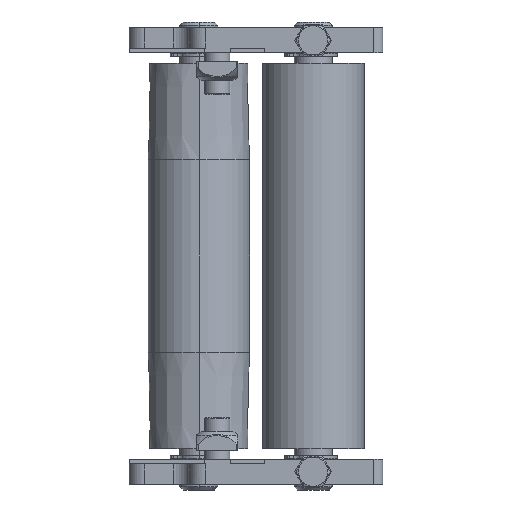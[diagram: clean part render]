
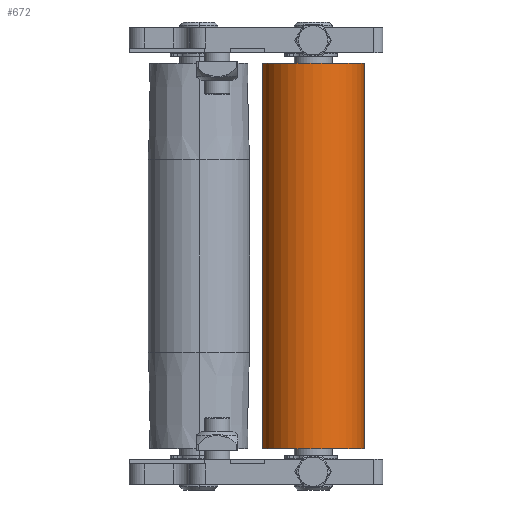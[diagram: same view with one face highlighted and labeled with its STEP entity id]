
A CAD part, left-side view. The second image highlights one B-rep face of the part: STEP entity #672.
In plain terms, the highlighted cylindrical face has radius 16 mm (diameter 32 mm), a partial arc.
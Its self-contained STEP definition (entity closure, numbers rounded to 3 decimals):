
#404 = CARTESIAN_POINT ( 'NONE',  ( 0., 0., 60.75 ) ) ;
#672 = ADVANCED_FACE ( 'NONE', ( #1500 ), #4150, .T. ) ;
#1006 = DIRECTION ( 'NONE',  ( 0., 0., -1. ) ) ;
#1235 = AXIS2_PLACEMENT_3D ( 'NONE', #9379, #6797, #2582 ) ;
#1500 = FACE_OUTER_BOUND ( 'NONE', #9106, .T. ) ;
#1512 = EDGE_CURVE ( 'NONE', #10269, #4262, #2423, .T. ) ;
#1737 = CARTESIAN_POINT ( 'NONE',  ( 16., 0., 60.75 ) ) ;
#2355 = ORIENTED_EDGE ( 'NONE', *, *, #3287, .T. ) ;
#2423 = LINE ( 'NONE', #6168, #4530 ) ;
#2553 = ORIENTED_EDGE ( 'NONE', *, *, #6024, .F. ) ;
#2579 = VECTOR ( 'NONE', #3667, 1000. ) ;
#2582 = DIRECTION ( 'NONE',  ( -1., 0., 0. ) ) ;
#3033 = DIRECTION ( 'NONE',  ( 0., 0., 1. ) ) ;
#3287 = EDGE_CURVE ( 'NONE', #4262, #4164, #7248, .T. ) ;
#3667 = DIRECTION ( 'NONE',  ( 0., 0., -1. ) ) ;
#3919 = EDGE_CURVE ( 'NONE', #10269, #5344, #8084, .T. ) ;
#4150 = CYLINDRICAL_SURFACE ( 'NONE', #1235, 16. ) ;
#4164 = VERTEX_POINT ( 'NONE', #5636 ) ;
#4262 = VERTEX_POINT ( 'NONE', #4875 ) ;
#4530 = VECTOR ( 'NONE', #1006, 1000. ) ;
#4875 = CARTESIAN_POINT ( 'NONE',  ( -16., 0., -60.75 ) ) ;
#5080 = DIRECTION ( 'NONE',  ( 0., 0., 1. ) ) ;
#5344 = VERTEX_POINT ( 'NONE', #1737 ) ;
#5636 = CARTESIAN_POINT ( 'NONE',  ( 16., 0., -60.75 ) ) ;
#5903 = AXIS2_PLACEMENT_3D ( 'NONE', #9203, #5080, #6956 ) ;
#6024 = EDGE_CURVE ( 'NONE', #5344, #4164, #7612, .T. ) ;
#6168 = CARTESIAN_POINT ( 'NONE',  ( -16., 0., 60.75 ) ) ;
#6363 = ORIENTED_EDGE ( 'NONE', *, *, #3919, .F. ) ;
#6797 = DIRECTION ( 'NONE',  ( 0., 0., -1. ) ) ;
#6956 = DIRECTION ( 'NONE',  ( 1., 0., 0. ) ) ;
#7190 = DIRECTION ( 'NONE',  ( 1., 0., 0. ) ) ;
#7248 = CIRCLE ( 'NONE', #5903, 16. ) ;
#7612 = LINE ( 'NONE', #10381, #2579 ) ;
#7698 = AXIS2_PLACEMENT_3D ( 'NONE', #404, #3033, #7190 ) ;
#8084 = CIRCLE ( 'NONE', #7698, 16. ) ;
#9106 = EDGE_LOOP ( 'NONE', ( #2553, #6363, #10432, #2355 ) ) ;
#9203 = CARTESIAN_POINT ( 'NONE',  ( 0., 0., -60.75 ) ) ;
#9379 = CARTESIAN_POINT ( 'NONE',  ( 0., 0., 60.75 ) ) ;
#9957 = CARTESIAN_POINT ( 'NONE',  ( -16., 0., 60.75 ) ) ;
#10269 = VERTEX_POINT ( 'NONE', #9957 ) ;
#10381 = CARTESIAN_POINT ( 'NONE',  ( 16., 0., 60.75 ) ) ;
#10432 = ORIENTED_EDGE ( 'NONE', *, *, #1512, .T. ) ;
